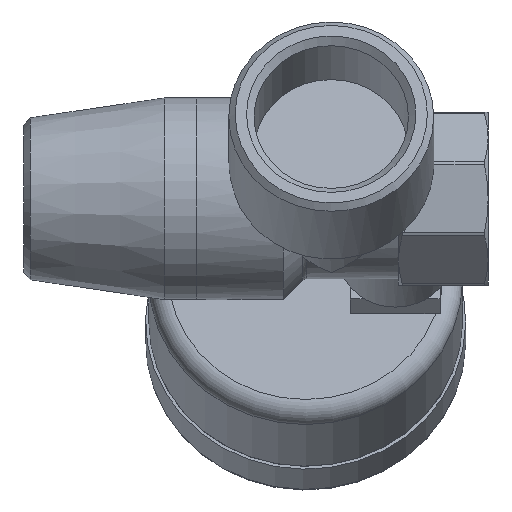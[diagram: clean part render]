
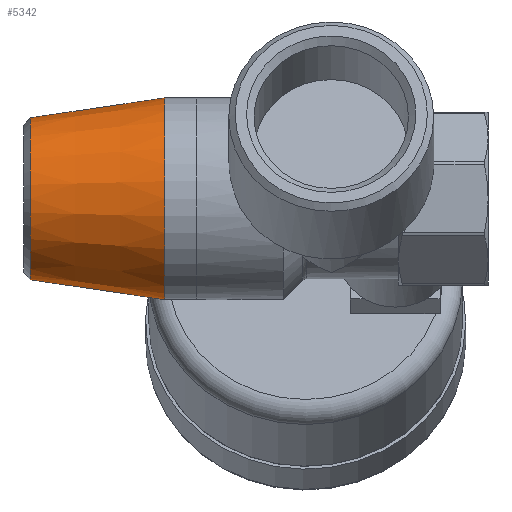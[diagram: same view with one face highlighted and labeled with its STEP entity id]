
A CAD part, left-side view. The second image highlights one B-rep face of the part: STEP entity #5342.
In plain terms, the highlighted conical face has half-angle 8.403 degrees and reference radius 14.125 mm.
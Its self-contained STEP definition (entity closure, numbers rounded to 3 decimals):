
#643=FACE_OUTER_BOUND('',#960,.T.);
#960=EDGE_LOOP('',(#4021,#4022,#4023,#4024,#4025,#4026));
#1287=LINE('',#8198,#1806);
#1806=VECTOR('',#6618,14.125);
#2351=CIRCLE('',#6002,12.646);
#2352=CIRCLE('',#6003,12.646);
#2353=CIRCLE('',#6005,15.75);
#2354=CIRCLE('',#6006,15.75);
#2520=VERTEX_POINT('',#8191);
#2521=VERTEX_POINT('',#8193);
#2522=VERTEX_POINT('',#8197);
#2523=VERTEX_POINT('',#8199);
#3088=EDGE_CURVE('',#2520,#2521,#2351,.T.);
#3089=EDGE_CURVE('',#2521,#2520,#2352,.T.);
#3090=EDGE_CURVE('',#2521,#2522,#1287,.T.);
#3091=EDGE_CURVE('',#2523,#2522,#2353,.T.);
#3092=EDGE_CURVE('',#2522,#2523,#2354,.T.);
#4021=ORIENTED_EDGE('',*,*,#3088,.F.);
#4022=ORIENTED_EDGE('',*,*,#3089,.F.);
#4023=ORIENTED_EDGE('',*,*,#3090,.T.);
#4024=ORIENTED_EDGE('',*,*,#3091,.F.);
#4025=ORIENTED_EDGE('',*,*,#3092,.F.);
#4026=ORIENTED_EDGE('',*,*,#3090,.F.);
#5282=CONICAL_SURFACE('',#6004,14.125,0.147);
#5342=ADVANCED_FACE('',(#643),#5282,.T.);
#6002=AXIS2_PLACEMENT_3D('',#8194,#6612,#6613);
#6003=AXIS2_PLACEMENT_3D('',#8195,#6614,#6615);
#6004=AXIS2_PLACEMENT_3D('',#8196,#6616,#6617);
#6005=AXIS2_PLACEMENT_3D('',#8200,#6619,#6620);
#6006=AXIS2_PLACEMENT_3D('',#8201,#6621,#6622);
#6612=DIRECTION('center_axis',(1.,0.,0.));
#6613=DIRECTION('ref_axis',(0.,0.,1.));
#6614=DIRECTION('center_axis',(1.,0.,0.));
#6615=DIRECTION('ref_axis',(0.,0.,1.));
#6616=DIRECTION('center_axis',(-1.,0.,0.));
#6617=DIRECTION('ref_axis',(0.,0.,-1.));
#6618=DIRECTION('',(-0.989,0.,0.146));
#6619=DIRECTION('center_axis',(-1.,0.,0.));
#6620=DIRECTION('ref_axis',(0.,-1.,0.));
#6621=DIRECTION('center_axis',(-1.,0.,0.));
#6622=DIRECTION('ref_axis',(0.,-1.,0.));
#8191=CARTESIAN_POINT('',(153.453,242.624,-12.646));
#8193=CARTESIAN_POINT('',(153.453,242.624,12.646));
#8194=CARTESIAN_POINT('Origin',(153.453,242.624,0.));
#8195=CARTESIAN_POINT('Origin',(153.453,242.624,0.));
#8196=CARTESIAN_POINT('Origin',(143.442,242.624,0.));
#8197=CARTESIAN_POINT('',(132.442,242.624,15.75));
#8198=CARTESIAN_POINT('',(143.442,242.624,14.125));
#8199=CARTESIAN_POINT('',(132.442,258.374,0.));
#8200=CARTESIAN_POINT('Origin',(132.442,242.624,0.));
#8201=CARTESIAN_POINT('Origin',(132.442,242.624,0.));
